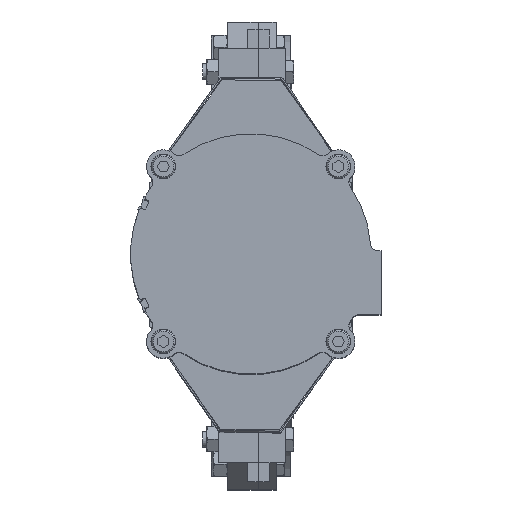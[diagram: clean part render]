
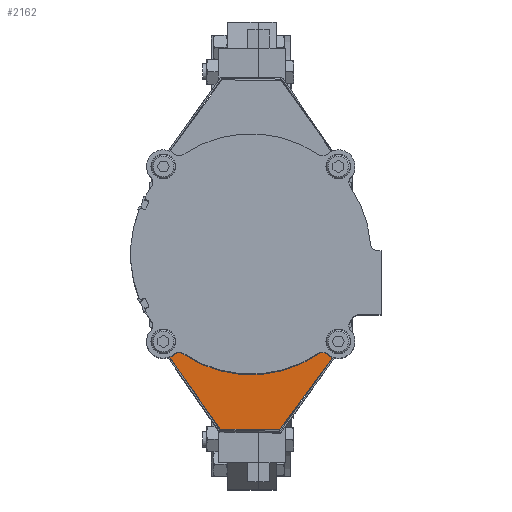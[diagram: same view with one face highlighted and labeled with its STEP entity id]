
A CAD part, top view. The second image highlights one B-rep face of the part: STEP entity #2162.
In plain terms, the highlighted planar face has unit normal (0, 0, 1).
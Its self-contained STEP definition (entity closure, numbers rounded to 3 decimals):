
#2162=ADVANCED_FACE('',(#6672),#6673,.F.);
#6672=FACE_OUTER_BOUND('',#11856,.T.);
#6673=PLANE('',#11857);
#11856=EDGE_LOOP('',(#28346,#28347,#28348,#28349,#28350,#28351,#28352));
#11857=AXIS2_PLACEMENT_3D('',#28353,#28354,#28355);
#28346=ORIENTED_EDGE('',*,*,#37019,.T.);
#28347=ORIENTED_EDGE('',*,*,#37023,.T.);
#28348=ORIENTED_EDGE('',*,*,#37024,.T.);
#28349=ORIENTED_EDGE('',*,*,#37025,.T.);
#28350=ORIENTED_EDGE('',*,*,#37026,.T.);
#28351=ORIENTED_EDGE('',*,*,#37027,.T.);
#28352=ORIENTED_EDGE('',*,*,#37028,.T.);
#28353=CARTESIAN_POINT('',(-45.735,-96.384,511.032));
#28354=DIRECTION('',(0.,0.,-1.));
#28355=DIRECTION('',(-0.009,-1.,0.));
#37019=EDGE_CURVE('',#46290,#46291,#46292,.T.);
#37023=EDGE_CURVE('',#46291,#46298,#46299,.T.);
#37024=EDGE_CURVE('',#46298,#46300,#46301,.T.);
#37025=EDGE_CURVE('',#46300,#46302,#46303,.T.);
#37026=EDGE_CURVE('',#46302,#46304,#46305,.T.);
#37027=EDGE_CURVE('',#46304,#46306,#46307,.T.);
#37028=EDGE_CURVE('',#46306,#46290,#46308,.T.);
#46290=VERTEX_POINT('',#64757);
#46291=VERTEX_POINT('',#64758);
#46292=LINE('',#64759,#64760);
#46298=VERTEX_POINT('',#64769);
#46299=LINE('',#64770,#64771);
#46300=VERTEX_POINT('',#64772);
#46301=LINE('',#64773,#64774);
#46302=VERTEX_POINT('',#64775);
#46303=LINE('',#64776,#64777);
#46304=VERTEX_POINT('',#64778);
#46305=LINE('',#64779,#64780);
#46306=VERTEX_POINT('',#64781);
#46307=LINE('',#64782,#64783);
#46308=LINE('',#64784,#64785);
#64757=CARTESIAN_POINT('',(-70.016,-64.171,511.032));
#64758=CARTESIAN_POINT('',(-22.594,-130.587,511.032));
#64759=CARTESIAN_POINT('',(-46.444,-97.184,511.032));
#64760=VECTOR('',#75343,10.);
#64769=CARTESIAN_POINT('',(-22.479,-130.588,511.032));
#64770=CARTESIAN_POINT('',(68.999,-131.386,511.032));
#64771=VECTOR('',#75347,10.);
#64772=CARTESIAN_POINT('',(21.535,-130.972,511.032));
#64773=CARTESIAN_POINT('',(68.999,-131.386,511.032));
#64774=VECTOR('',#75348,10.);
#64775=CARTESIAN_POINT('',(69.575,-65.389,511.032));
#64776=CARTESIAN_POINT('',(30.044,-119.356,511.032));
#64777=VECTOR('',#75349,10.);
#64778=CARTESIAN_POINT('',(69.593,-63.389,511.032));
#64779=CARTESIAN_POINT('',(69.593,-63.389,511.032));
#64780=VECTOR('',#75350,10.);
#64781=CARTESIAN_POINT('',(-69.999,-62.171,511.032));
#64782=CARTESIAN_POINT('',(-69.999,-62.171,511.032));
#64783=VECTOR('',#75351,10.);
#64784=CARTESIAN_POINT('',(-70.592,-130.168,511.032));
#64785=VECTOR('',#75352,10.);
#75343=DIRECTION('',(0.581,-0.814,0.));
#75347=DIRECTION('',(1.,-0.009,0.));
#75348=DIRECTION('',(1.,-0.009,0.));
#75349=DIRECTION('',(0.591,0.807,0.));
#75350=DIRECTION('',(0.009,1.,0.));
#75351=DIRECTION('',(-1.,0.009,0.));
#75352=DIRECTION('',(-0.009,-1.,0.));
